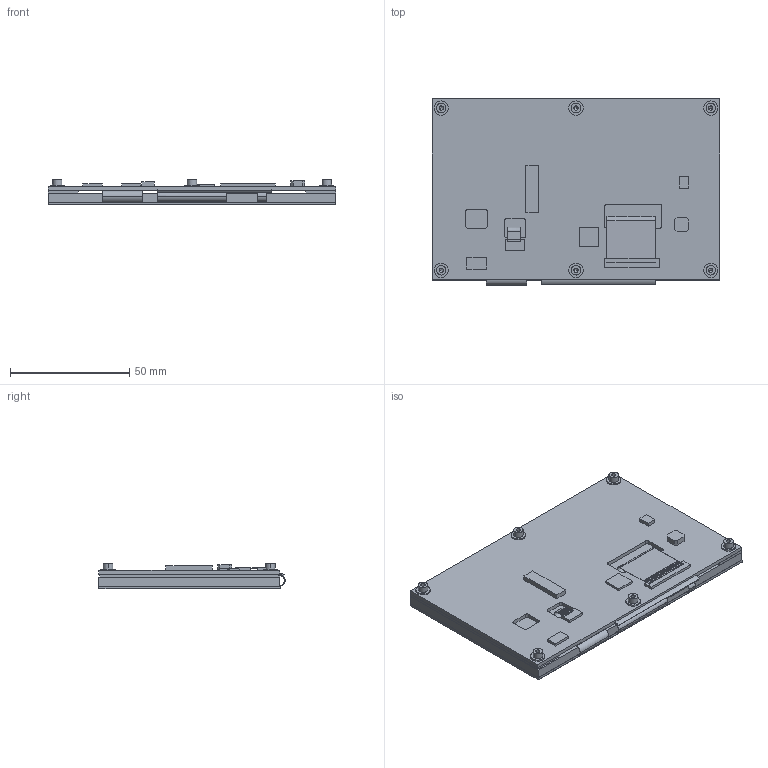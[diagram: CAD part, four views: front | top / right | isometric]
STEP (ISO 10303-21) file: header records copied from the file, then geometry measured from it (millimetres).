
FILE_DESCRIPTION (( 'STEP AP214' ), '1' );
FILE_NAME ('CFAF800480E1050SC-A1-1.STEP', '2019-12-19T23:24:47', ( '' ), ( '' ), 'SwSTEP 2.0', 'SolidWorks 2015', '' );
FILE_SCHEMA (( 'AUTOMOTIVE_DESIGN' ));
Length unit declared in the file: millimetre
Products named in the file (4): CFAF800480E1-050SC drawing; cfa_10100_PCB; clear_1mm_tape; CFAF800480E1050SC-A1-1
Assembly tree (4 placements, depth 2):
  CFAF800480E1050SC-A1-1
    cfa_10100_PCB
    CFAF800480E1-050SC drawing
    clear_1mm_tape  x2
Bounding box: 120.7 x 78.17 x 10.72 mm (x, y, z)
Volume: 46207.3 mm3; surface area: 66539.7 mm2
Topology: 4 solids, 7 shells, 407 faces, 1109 edges, 732 vertices
Faces by surface type: plane 332, cylinder 59, cone 12, bspline 4
Entity records: 18199 total; most frequent: CARTESIAN_POINT 4781, ORIENTED_EDGE 2170, DIRECTION 1333, EDGE_CURVE 1085, VERTEX_POINT 724, B_SPLINE_CURVE_WITH_KNOTS 686, AXIS2_PLACEMENT_3D 529, EDGE_LOOP 435
